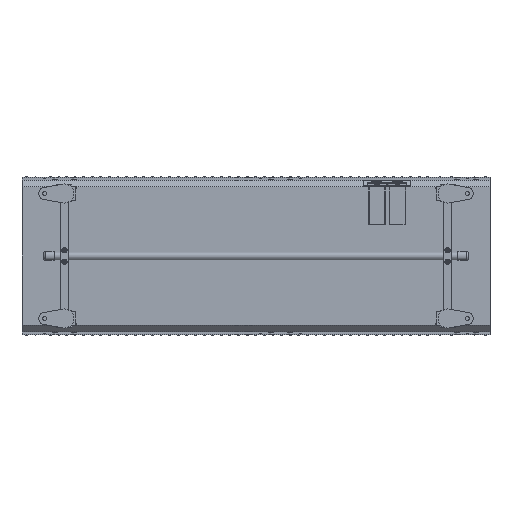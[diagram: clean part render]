
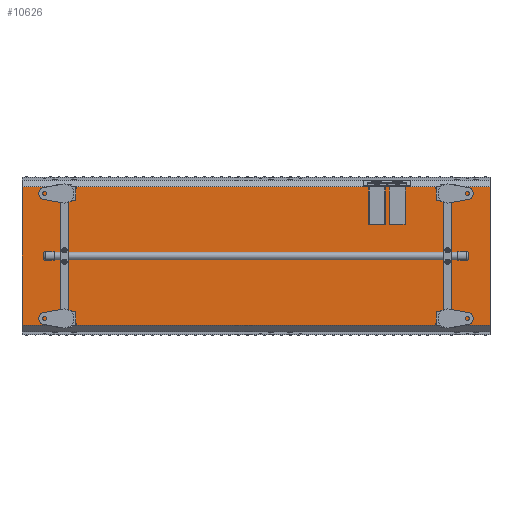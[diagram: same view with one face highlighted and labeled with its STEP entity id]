
A CAD part, front view. The second image highlights one B-rep face of the part: STEP entity #10626.
In plain terms, the highlighted planar face has unit normal (0, -1, 0).
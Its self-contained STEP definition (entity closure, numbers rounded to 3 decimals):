
#184 = VERTEX_POINT ( 'NONE', #12815 ) ;
#441 = CARTESIAN_POINT ( 'NONE',  ( 0., -215.213, 219.787 ) ) ;
#1363 = AXIS2_PLACEMENT_3D ( 'NONE', #40393, #25041, #45824 ) ;
#2035 = VECTOR ( 'NONE', #11130, 1000. ) ;
#3382 = PLANE ( 'NONE',  #1363 ) ;
#4533 = ORIENTED_EDGE ( 'NONE', *, *, #47946, .T. ) ;
#5875 = LINE ( 'NONE', #55324, #63584 ) ;
#10626 = ADVANCED_FACE ( 'NONE', ( #59029 ), #3382, .F. ) ;
#11130 = DIRECTION ( 'NONE',  ( 0., 0., -1. ) ) ;
#11676 = EDGE_LOOP ( 'NONE', ( #55881, #14596, #4533, #65859 ) ) ;
#12815 = CARTESIAN_POINT ( 'NONE',  ( 1490., -215.213, 219.787 ) ) ;
#13164 = VERTEX_POINT ( 'NONE', #15928 ) ;
#14596 = ORIENTED_EDGE ( 'NONE', *, *, #64234, .T. ) ;
#15880 = EDGE_CURVE ( 'NONE', #13164, #68080, #48659, .T. ) ;
#15928 = CARTESIAN_POINT ( 'NONE',  ( 0., -215.213, 219.787 ) ) ;
#17901 = CARTESIAN_POINT ( 'NONE',  ( 1490., -215.213, -219.787 ) ) ;
#22003 = VERTEX_POINT ( 'NONE', #43547 ) ;
#23395 = DIRECTION ( 'NONE',  ( -1., 0., 0. ) ) ;
#25041 = DIRECTION ( 'NONE',  ( 0., 1., 0. ) ) ;
#28666 = VECTOR ( 'NONE', #52665, 1000. ) ;
#34010 = DIRECTION ( 'NONE',  ( 0., 0., 1. ) ) ;
#39171 = CARTESIAN_POINT ( 'NONE',  ( 0., -215.213, -219.787 ) ) ;
#40393 = CARTESIAN_POINT ( 'NONE',  ( 2021.172, -215.213, 219.787 ) ) ;
#43547 = CARTESIAN_POINT ( 'NONE',  ( 1490., -215.213, -219.787 ) ) ;
#45824 = DIRECTION ( 'NONE',  ( 0., 0., 1. ) ) ;
#47190 = LINE ( 'NONE', #17901, #67569 ) ;
#47202 = CARTESIAN_POINT ( 'NONE',  ( 2021.172, -215.213, 219.787 ) ) ;
#47731 = EDGE_CURVE ( 'NONE', #22003, #68080, #47190, .T. ) ;
#47946 = EDGE_CURVE ( 'NONE', #184, #13164, #50618, .T. ) ;
#48659 = LINE ( 'NONE', #441, #2035 ) ;
#50618 = LINE ( 'NONE', #47202, #28666 ) ;
#52665 = DIRECTION ( 'NONE',  ( -1., 0., 0. ) ) ;
#55324 = CARTESIAN_POINT ( 'NONE',  ( 1490., -215.213, 219.787 ) ) ;
#55881 = ORIENTED_EDGE ( 'NONE', *, *, #47731, .F. ) ;
#59029 = FACE_OUTER_BOUND ( 'NONE', #11676, .T. ) ;
#63584 = VECTOR ( 'NONE', #34010, 1000. ) ;
#64234 = EDGE_CURVE ( 'NONE', #22003, #184, #5875, .T. ) ;
#65859 = ORIENTED_EDGE ( 'NONE', *, *, #15880, .T. ) ;
#67569 = VECTOR ( 'NONE', #23395, 1000. ) ;
#68080 = VERTEX_POINT ( 'NONE', #39171 ) ;
